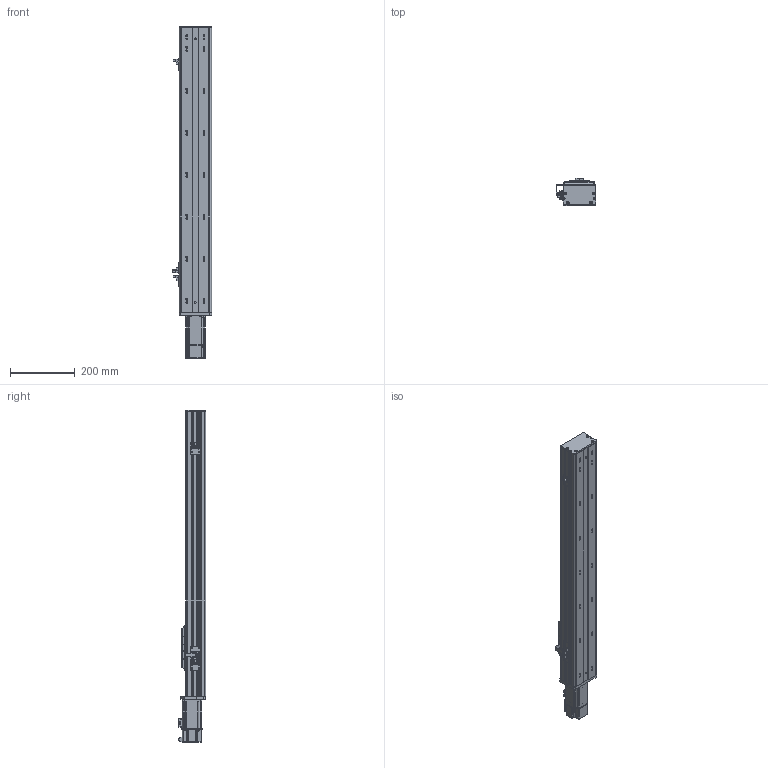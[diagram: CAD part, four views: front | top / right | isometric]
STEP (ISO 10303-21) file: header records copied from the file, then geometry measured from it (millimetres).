
FILE_DESCRIPTION (( 'STEP AP203' ), '1' );
FILE_NAME ('BOSW100-650-1610-1P-CM-M400W-O-S3（方程式2016）.step', '2020-10-10T06:34:42', ( '' ), ( '' ), 'SwSTEP 2.0', 'SolidWorks 2016', '' );
FILE_SCHEMA (( 'CONFIG_CONTROL_DESIGN' ));
Length unit declared in the file: millimetre
Products named in the file (13): BOSW100-650-1610-1P-CM-M400W-O-S3（方程式2016）; BOSW&TW-100-1P-賑雄釱欶; S400W(SMA-L040); BOSW&TW-100-詩湍揤沭(陔賦凳); BOSW-100-綴裔啣; BOSW-100-CM-宽轨-三菱M200W&400W马达板(新结构); 放大器内置U型微型光电传感器PM-L65; BOSW-100-1P-CM-650諦誧芞; 俋境嫖覜嘐隅啣; BOSW&TW-100-俋离覜茼え; BOSW-100-1P-CM-宽轨-侧板-650客户图纸; 新结构AIMSW-100-1P-宽&高轨共用-滑动座上组件; BOSW-100-1P-CM-宽轨-钢带-650客户图纸
Assembly tree (18 placements, depth 2):
  BOSW100-650-1610-1P-CM-M400W-O-S3（方程式2016）
    BOSW-100-1P-CM-650諦誧芞
    BOSW-100-綴裔啣
    新结构AIMSW-100-1P-宽&高轨共用-滑动座上组件
    S400W(SMA-L040)
    BOSW&TW-100-詩湍揤沭(陔賦凳)  x2
    BOSW&TW-100-1P-賑雄釱欶
    BOSW&TW-100-俋离覜茼え
    俋境嫖覜嘐隅啣  x3
    放大器内置U型微型光电传感器PM-L65  x3
    BOSW-100-CM-宽轨-三菱M200W&400W马达板(新结构)
    BOSW-100-1P-CM-宽轨-侧板-650客户图纸  x2
    BOSW-100-1P-CM-宽轨-钢带-650客户图纸
Bounding box: 120.9 x 85.5 x 1027.8 mm (x, y, z)
Volume: 2020882.5 mm3; surface area: 908895.4 mm2
Topology: 18 solids, 18 shells, 2523 faces, 6660 edges, 4249 vertices
Faces by surface type: plane 1226, cylinder 813, bspline 271, cone 165, torus 36, sphere 12
Entity records: 69156 total; most frequent: CARTESIAN_POINT 20762, ORIENTED_EDGE 9860, DIRECTION 9584, EDGE_CURVE 4930, AXIS2_PLACEMENT_3D 3422, VERTEX_POINT 3151, LINE 2740, VECTOR 2740
